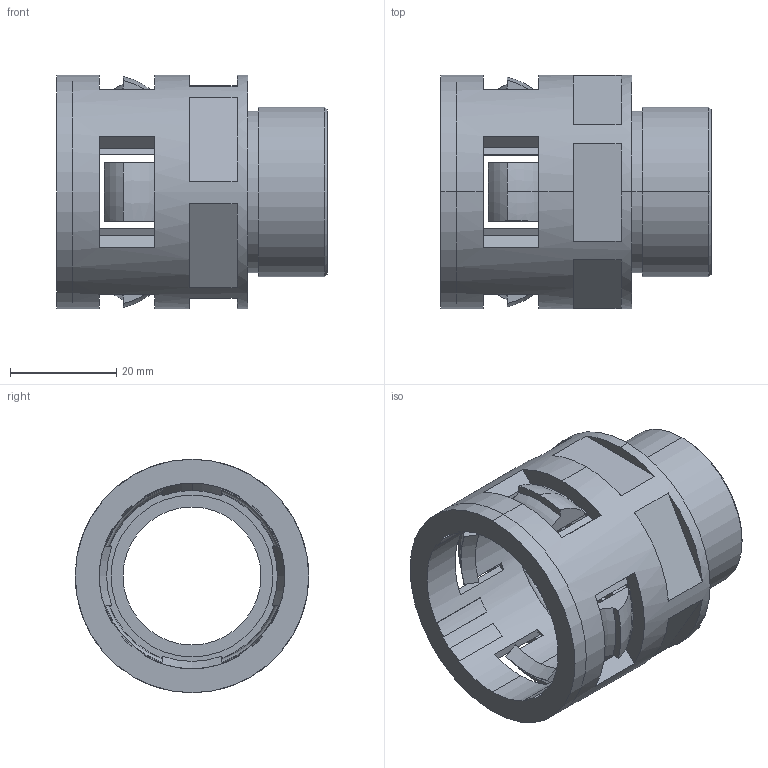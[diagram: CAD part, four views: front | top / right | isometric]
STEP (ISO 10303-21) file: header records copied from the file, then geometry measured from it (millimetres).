
FILE_DESCRIPTION (( 'STEP AP203' ), '1' );
FILE_NAME ('WQG-M32 AD34.5.STEP', '2013-12-11T02:13:01', ( 'User' ), ( 'Microsoft' ), 'SwSTEP 2.0', 'SolidWorks 2010', '' );
FILE_SCHEMA (( 'CONFIG_CONTROL_DESIGN' ));
Length unit declared in the file: millimetre
Products named in the file (4): GFD-AD34.5; WQG-M32 AD34.5-01; NSK-AD34.5; WQG-M32 AD34.5
Assembly tree (3 placements, depth 2):
  WQG-M32 AD34.5
    GFD-AD34.5
    WQG-M32 AD34.5-01
    NSK-AD34.5
Bounding box: 51 x 44 x 44 mm (x, y, z)
Volume: 20890.2 mm3; surface area: 22850.2 mm2
Topology: 3 solids, 3 shells, 211 faces, 556 edges, 352 vertices
Faces by surface type: plane 109, cone 43, cylinder 36, torus 23
Entity records: 7151 total; most frequent: CARTESIAN_POINT 1309, DIRECTION 1221, ORIENTED_EDGE 1112, EDGE_CURVE 556, AXIS2_PLACEMENT_3D 472, VERTEX_POINT 352, LINE 277, VECTOR 277
